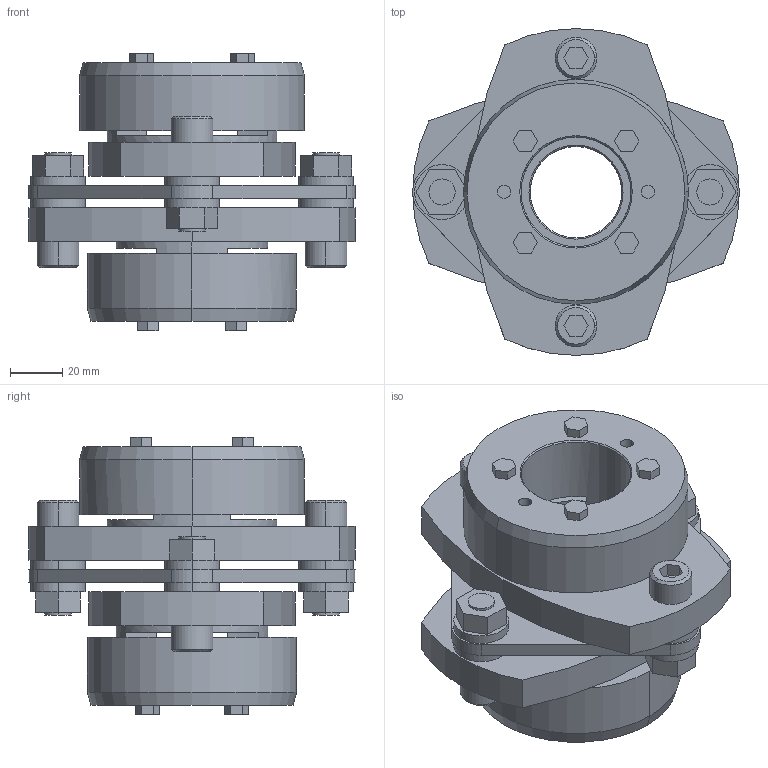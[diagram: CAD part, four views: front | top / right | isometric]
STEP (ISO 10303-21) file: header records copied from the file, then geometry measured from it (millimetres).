
FILE_DESCRIPTION((''),'2;1');
FILE_NAME('LCS-125T7-35×42.stp','2011-09-07T09:57:01',(''),(''),'AutoCAD STEP 2000i','AutoCAD 2000i',', , ');
FILE_SCHEMA(('CONFIG_CONTROL_DESIGN'));
Length unit declared in the file: millimetre
Products named in the file (9): LCS-125T7-35×40; 忣兜1; LC125T7-T040; LC125T7-T038; LC125T7-T035-1; LC125T7-T035; LC125T7-T032-1; LC125T7-T032; LCS125-ITA
Assembly tree (8 placements, depth 2):
  LCS-125T7-35×40
    忣兜1
    LC125T7-T040
    LC125T7-T038
    LC125T7-T035-1
    LC125T7-T035
    LC125T7-T032-1
    LC125T7-T032
    LCS125-ITA
Bounding box: 125 x 125 x 106 mm (x, y, z)
Volume: 479743 mm3; surface area: 97934.7 mm2
Topology: 1 solids, 1 shells, 246 faces, 606 edges, 398 vertices
Faces by surface type: plane 146, cylinder 80, cone 20
Entity records: 7527 total; most frequent: DIRECTION 1314, CARTESIAN_POINT 1259, ORIENTED_EDGE 1212, EDGE_CURVE 606, AXIS2_PLACEMENT_3D 453, VECTOR 408, LINE 408, VERTEX_POINT 398
